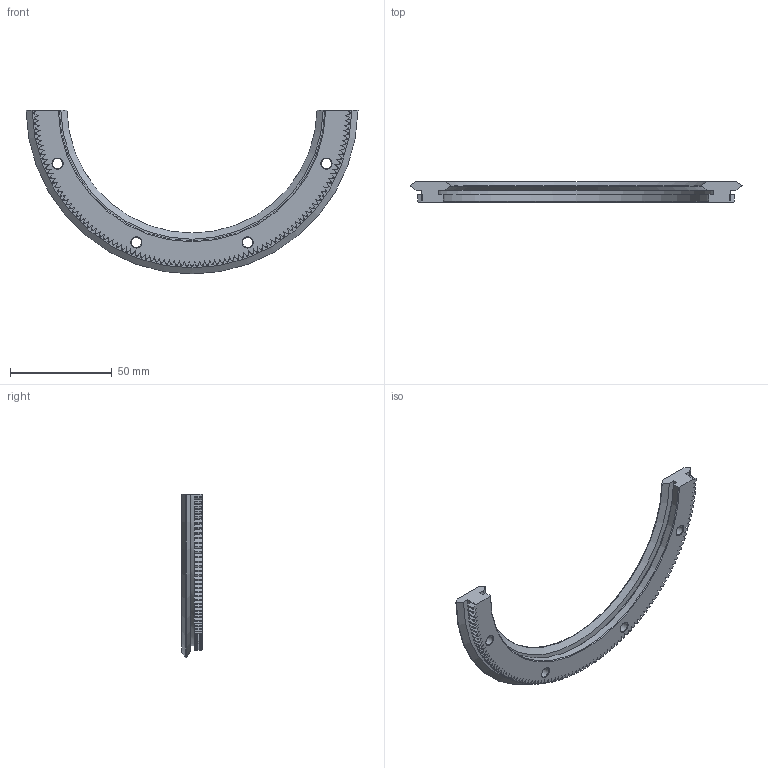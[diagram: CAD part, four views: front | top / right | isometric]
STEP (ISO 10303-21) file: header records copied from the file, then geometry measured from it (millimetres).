
FILE_DESCRIPTION( ( 'STEP AP203' ), '1' );
FILE_NAME( 'p:/temp/worker_46/temp/exporttempdir_4808_2_9X5LY/format_0/R20 143 R180 P.stp', '2021-08-30T04:10:37', ( 'License CC BY-ND 4.0' ), ( 'CADENAS' ), ' ', 'PARTsolutions', ' ' );
FILE_SCHEMA( ( 'CONFIG_CONTROL_DESIGN' ) );
Length unit declared in the file: millimetre
Products named in the file (1): _R20 143 R180 P
Bounding box: 163.09 x 10 x 80.55 mm (x, y, z)
Volume: 28426.1 mm3; surface area: 15564.6 mm2
Topology: 1 solids, 1 shells, 608 faces, 1610 edges, 1008 vertices
Faces by surface type: plane 396, cylinder 106, cone 104, torus 2
Full cylindrical faces by diameter (mm): 5 x4, 8 x4
Entity records: 18894 total; most frequent: CARTESIAN_POINT 3836, ORIENTED_EDGE 3196, DIRECTION 3124, EDGE_CURVE 1598, AXIS2_PLACEMENT_3D 1121, VERTEX_POINT 1009, LINE 882, VECTOR 882
